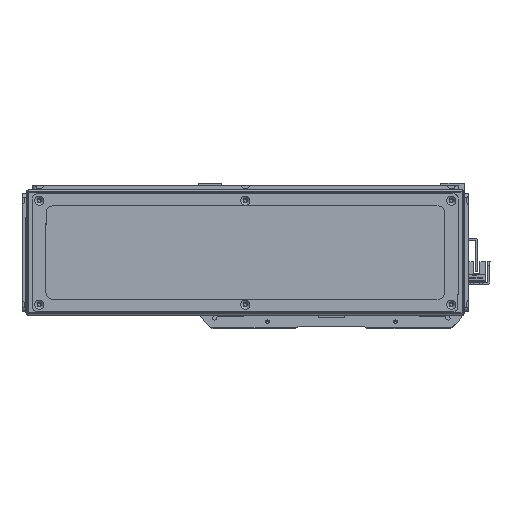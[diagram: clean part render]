
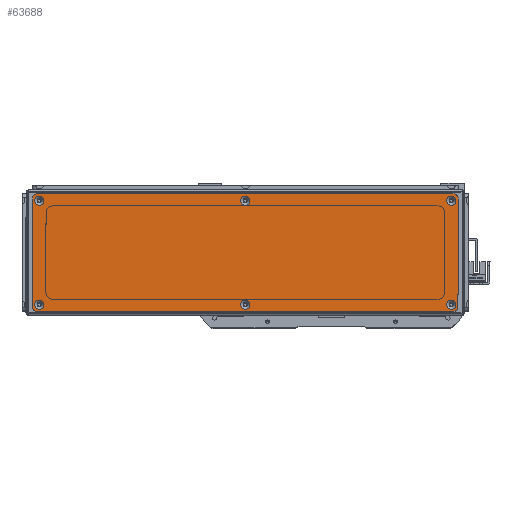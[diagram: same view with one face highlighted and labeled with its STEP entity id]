
A CAD part, front view. The second image highlights one B-rep face of the part: STEP entity #63688.
In plain terms, the highlighted planar face has unit normal (0, -1, 0).
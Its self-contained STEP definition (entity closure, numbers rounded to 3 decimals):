
#656=FACE_BOUND('',#11479,.T.);
#657=FACE_BOUND('',#11480,.T.);
#658=FACE_BOUND('',#11481,.T.);
#659=FACE_BOUND('',#11482,.T.);
#660=FACE_BOUND('',#11483,.T.);
#661=FACE_BOUND('',#11484,.T.);
#3758=PLANE('',#68580);
#7845=FACE_OUTER_BOUND('',#11478,.T.);
#11478=EDGE_LOOP('',(#59776,#59777,#59778,#59779,#59780,#59781,#59782,#59783));
#11479=EDGE_LOOP('',(#59784));
#11480=EDGE_LOOP('',(#59785));
#11481=EDGE_LOOP('',(#59786));
#11482=EDGE_LOOP('',(#59787));
#11483=EDGE_LOOP('',(#59788));
#11484=EDGE_LOOP('',(#59789));
#18730=LINE('',#105269,#26027);
#18731=LINE('',#105273,#26028);
#18732=LINE('',#105277,#26029);
#18733=LINE('',#105280,#26030);
#26027=VECTOR('',#84689,10.);
#26028=VECTOR('',#84692,10.);
#26029=VECTOR('',#84695,10.);
#26030=VECTOR('',#84698,10.);
#27542=CIRCLE('',#68548,3.45);
#27545=CIRCLE('',#68553,3.45);
#27548=CIRCLE('',#68558,3.45);
#27551=CIRCLE('',#68563,3.45);
#27554=CIRCLE('',#68568,3.45);
#27557=CIRCLE('',#68573,3.45);
#27560=CIRCLE('',#68578,3.);
#27562=CIRCLE('',#68581,3.);
#27563=CIRCLE('',#68582,3.);
#27564=CIRCLE('',#68583,3.);
#33385=VERTEX_POINT('',#105199);
#33388=VERTEX_POINT('',#105209);
#33391=VERTEX_POINT('',#105219);
#33394=VERTEX_POINT('',#105229);
#33397=VERTEX_POINT('',#105239);
#33400=VERTEX_POINT('',#105249);
#33403=VERTEX_POINT('',#105259);
#33404=VERTEX_POINT('',#105260);
#33407=VERTEX_POINT('',#105268);
#33408=VERTEX_POINT('',#105270);
#33409=VERTEX_POINT('',#105272);
#33410=VERTEX_POINT('',#105274);
#33411=VERTEX_POINT('',#105276);
#33412=VERTEX_POINT('',#105278);
#42206=EDGE_CURVE('',#33385,#33385,#27542,.T.);
#42211=EDGE_CURVE('',#33388,#33388,#27545,.T.);
#42216=EDGE_CURVE('',#33391,#33391,#27548,.T.);
#42221=EDGE_CURVE('',#33394,#33394,#27551,.T.);
#42226=EDGE_CURVE('',#33397,#33397,#27554,.T.);
#42231=EDGE_CURVE('',#33400,#33400,#27557,.T.);
#42236=EDGE_CURVE('',#33403,#33404,#27560,.T.);
#42240=EDGE_CURVE('',#33403,#33407,#18730,.T.);
#42241=EDGE_CURVE('',#33408,#33407,#27562,.T.);
#42242=EDGE_CURVE('',#33408,#33409,#18731,.T.);
#42243=EDGE_CURVE('',#33410,#33409,#27563,.T.);
#42244=EDGE_CURVE('',#33410,#33411,#18732,.T.);
#42245=EDGE_CURVE('',#33412,#33411,#27564,.T.);
#42246=EDGE_CURVE('',#33412,#33404,#18733,.T.);
#59776=ORIENTED_EDGE('',*,*,#42236,.F.);
#59777=ORIENTED_EDGE('',*,*,#42240,.T.);
#59778=ORIENTED_EDGE('',*,*,#42241,.F.);
#59779=ORIENTED_EDGE('',*,*,#42242,.T.);
#59780=ORIENTED_EDGE('',*,*,#42243,.F.);
#59781=ORIENTED_EDGE('',*,*,#42244,.T.);
#59782=ORIENTED_EDGE('',*,*,#42245,.F.);
#59783=ORIENTED_EDGE('',*,*,#42246,.T.);
#59784=ORIENTED_EDGE('',*,*,#42206,.T.);
#59785=ORIENTED_EDGE('',*,*,#42211,.T.);
#59786=ORIENTED_EDGE('',*,*,#42216,.T.);
#59787=ORIENTED_EDGE('',*,*,#42221,.T.);
#59788=ORIENTED_EDGE('',*,*,#42226,.T.);
#59789=ORIENTED_EDGE('',*,*,#42231,.T.);
#63688=ADVANCED_FACE('',(#7845,#656,#657,#658,#659,#660,#661),#3758,.T.);
#68548=AXIS2_PLACEMENT_3D('',#105200,#84609,#84610);
#68553=AXIS2_PLACEMENT_3D('',#105210,#84621,#84622);
#68558=AXIS2_PLACEMENT_3D('',#105220,#84633,#84634);
#68563=AXIS2_PLACEMENT_3D('',#105230,#84645,#84646);
#68568=AXIS2_PLACEMENT_3D('',#105240,#84657,#84658);
#68573=AXIS2_PLACEMENT_3D('',#105250,#84669,#84670);
#68578=AXIS2_PLACEMENT_3D('',#105261,#84681,#84682);
#68580=AXIS2_PLACEMENT_3D('',#105267,#84687,#84688);
#68581=AXIS2_PLACEMENT_3D('',#105271,#84690,#84691);
#68582=AXIS2_PLACEMENT_3D('',#105275,#84693,#84694);
#68583=AXIS2_PLACEMENT_3D('',#105279,#84696,#84697);
#84609=DIRECTION('center_axis',(0.,1.,0.));
#84610=DIRECTION('ref_axis',(1.,0.,0.));
#84621=DIRECTION('center_axis',(0.,1.,0.));
#84622=DIRECTION('ref_axis',(1.,0.,0.));
#84633=DIRECTION('center_axis',(0.,1.,0.));
#84634=DIRECTION('ref_axis',(1.,0.,0.));
#84645=DIRECTION('center_axis',(0.,1.,0.));
#84646=DIRECTION('ref_axis',(1.,0.,0.));
#84657=DIRECTION('center_axis',(0.,1.,0.));
#84658=DIRECTION('ref_axis',(1.,0.,0.));
#84669=DIRECTION('center_axis',(0.,1.,0.));
#84670=DIRECTION('ref_axis',(1.,0.,0.));
#84681=DIRECTION('center_axis',(0.,1.,0.));
#84682=DIRECTION('ref_axis',(-0.707,0.,0.707));
#84687=DIRECTION('center_axis',(0.,-1.,0.));
#84688=DIRECTION('ref_axis',(0.,0.,-1.));
#84689=DIRECTION('',(0.,0.,-1.));
#84690=DIRECTION('center_axis',(0.,1.,0.));
#84691=DIRECTION('ref_axis',(-0.707,0.,-0.707));
#84692=DIRECTION('',(1.,0.,0.));
#84693=DIRECTION('center_axis',(0.,1.,0.));
#84694=DIRECTION('ref_axis',(0.707,0.,-0.707));
#84695=DIRECTION('',(0.,0.,1.));
#84696=DIRECTION('center_axis',(0.,1.,0.));
#84697=DIRECTION('ref_axis',(0.707,0.,0.707));
#84698=DIRECTION('',(-1.,0.,0.));
#105199=CARTESIAN_POINT('',(151.05,-1.5,39.));
#105200=CARTESIAN_POINT('Origin',(154.5,-1.5,39.));
#105209=CARTESIAN_POINT('',(-3.45,-1.5,39.));
#105210=CARTESIAN_POINT('Origin',(0.,-1.5,39.));
#105219=CARTESIAN_POINT('',(-157.95,-1.5,39.));
#105220=CARTESIAN_POINT('Origin',(-154.5,-1.5,39.));
#105229=CARTESIAN_POINT('',(-157.95,-1.5,-39.));
#105230=CARTESIAN_POINT('Origin',(-154.5,-1.5,-39.));
#105239=CARTESIAN_POINT('',(-3.45,-1.5,-39.));
#105240=CARTESIAN_POINT('Origin',(0.,-1.5,-39.));
#105249=CARTESIAN_POINT('',(151.05,-1.5,-39.));
#105250=CARTESIAN_POINT('Origin',(154.5,-1.5,-39.));
#105259=CARTESIAN_POINT('',(-159.5,-1.5,41.));
#105260=CARTESIAN_POINT('',(-156.5,-1.5,44.));
#105261=CARTESIAN_POINT('Origin',(-156.5,-1.5,41.));
#105267=CARTESIAN_POINT('Origin',(0.,-1.5,0.));
#105268=CARTESIAN_POINT('',(-159.5,-1.5,-41.));
#105269=CARTESIAN_POINT('',(-159.5,-1.5,44.));
#105270=CARTESIAN_POINT('',(-156.5,-1.5,-44.));
#105271=CARTESIAN_POINT('Origin',(-156.5,-1.5,-41.));
#105272=CARTESIAN_POINT('',(156.5,-1.5,-44.));
#105273=CARTESIAN_POINT('',(-159.5,-1.5,-44.));
#105274=CARTESIAN_POINT('',(159.5,-1.5,-41.));
#105275=CARTESIAN_POINT('Origin',(156.5,-1.5,-41.));
#105276=CARTESIAN_POINT('',(159.5,-1.5,41.));
#105277=CARTESIAN_POINT('',(159.5,-1.5,-44.));
#105278=CARTESIAN_POINT('',(156.5,-1.5,44.));
#105279=CARTESIAN_POINT('Origin',(156.5,-1.5,41.));
#105280=CARTESIAN_POINT('',(159.5,-1.5,44.));
